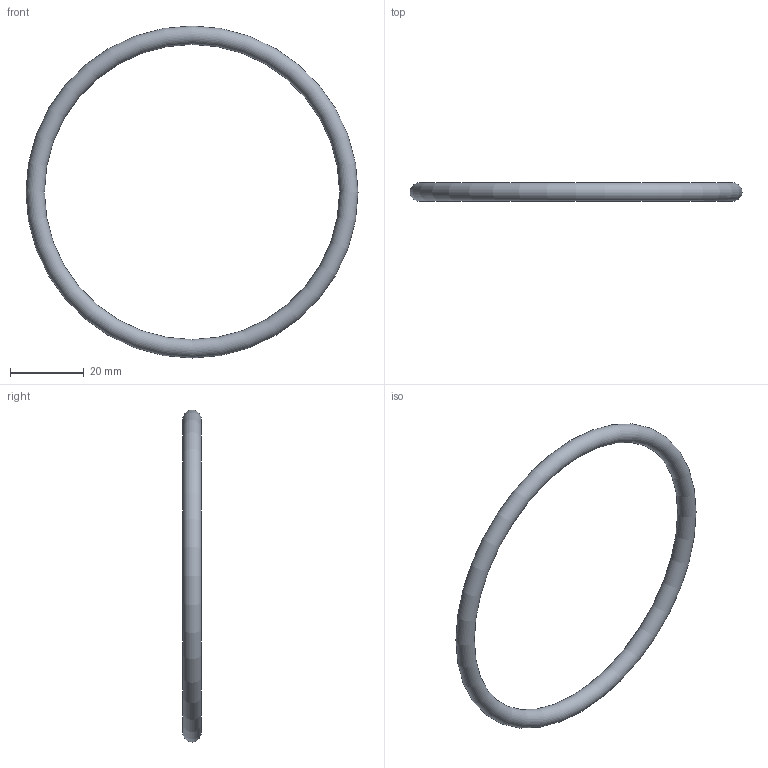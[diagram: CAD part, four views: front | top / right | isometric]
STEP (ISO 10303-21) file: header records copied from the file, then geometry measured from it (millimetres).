
FILE_DESCRIPTION( ( 'STEP AP203' ), '1' );
FILE_NAME( 'C:/Temp/Ganter_Step_05_03_2020/data/3_5/or638/O-Ring OR638-80.00-5.00-70.stp', '2020-03-12T13:44:34', ( 'License CC BY-ND 4.0' ), ( 'CADENAS' ), ' ', 'PARTsolutions', ' ' );
FILE_SCHEMA( ( 'CONFIG_CONTROL_DESIGN' ) );
Length unit declared in the file: millimetre
Products named in the file (1): _O-Ring OR638-80.00-5.00-70
Bounding box: 90 x 5 x 90 mm (x, y, z)
Volume: 5243.2 mm3; surface area: 4194.6 mm2
Topology: 1 solids, 1 shells, 1 faces, 2 edges, 1 vertices
Faces by surface type: torus 1
Entity records: 62 total; most frequent: CC_DESIGN_PERSON_AND_ORGANIZATION_ASSIGNMENT 5, PERSON_AND_ORGANIZATION_ROLE 4, DIRECTION 4, CARTESIAN_POINT 3, DATE_TIME_ROLE 2, CC_DESIGN_DATE_AND_TIME_ASSIGNMENT 2, AXIS2_PLACEMENT_3D 2, DIMENSIONAL_EXPONENTS 2
